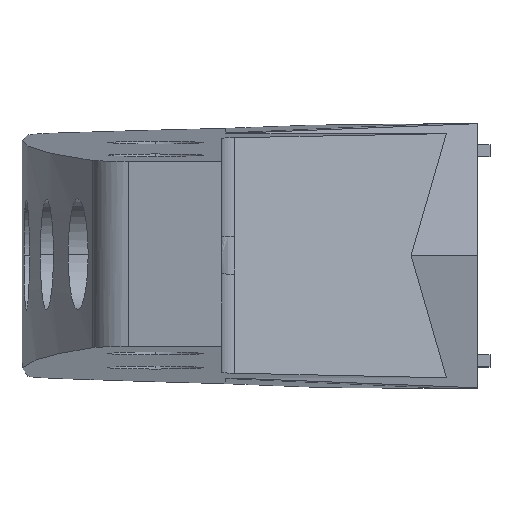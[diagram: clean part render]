
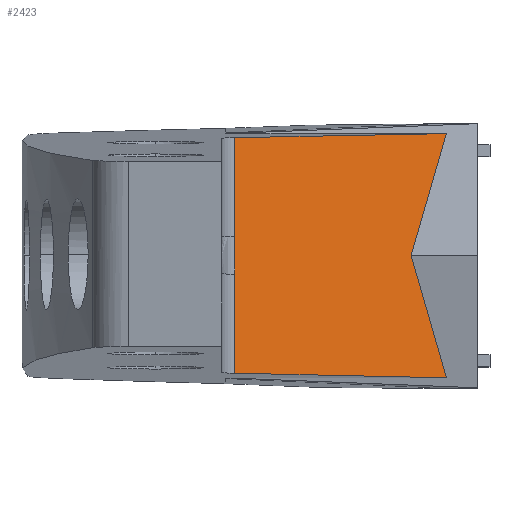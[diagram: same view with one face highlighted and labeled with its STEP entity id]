
A CAD part, top view. The second image highlights one B-rep face of the part: STEP entity #2423.
In plain terms, the highlighted planar face has unit normal (0.567, 0, 0.824).
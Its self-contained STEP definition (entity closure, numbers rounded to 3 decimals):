
#15 = DIRECTION ( 'NONE',  ( -0.824, -0.017, 0.567 ) ) ;
#19 = VERTEX_POINT ( 'NONE', #436 ) ;
#25 = CARTESIAN_POINT ( 'NONE',  ( 25.339, 240.703, 24.941 ) ) ;
#74 = CARTESIAN_POINT ( 'NONE',  ( -9.916, 217.27, 49.217 ) ) ;
#89 = EDGE_CURVE ( 'NONE', #2169, #1644, #1365, .T. ) ;
#102 = ORIENTED_EDGE ( 'NONE', *, *, #978, .T. ) ;
#183 = CARTESIAN_POINT ( 'NONE',  ( 19.445, 220.363, 29. ) ) ;
#199 = CARTESIAN_POINT ( 'NONE',  ( -9.916, 217.27, 49.217 ) ) ;
#307 = ORIENTED_EDGE ( 'NONE', *, *, #2319, .T. ) ;
#337 = EDGE_LOOP ( 'NONE', ( #680, #307, #102, #865, #2372, #658, #1643 ) ) ;
#436 = CARTESIAN_POINT ( 'NONE',  ( -9.916, 200.744, 49.217 ) ) ;
#449 = VERTEX_POINT ( 'NONE', #2281 ) ;
#470 = CARTESIAN_POINT ( 'NONE',  ( -9.916, 217.785, 49.217 ) ) ;
#564 = CARTESIAN_POINT ( 'NONE',  ( 30.597, 198.363, 21.321 ) ) ;
#613 = LINE ( 'NONE', #2429, #2119 ) ;
#658 = ORIENTED_EDGE ( 'NONE', *, *, #1565, .F. ) ;
#680 = ORIENTED_EDGE ( 'NONE', *, *, #1508, .T. ) ;
#703 = VECTOR ( 'NONE', #706, 1000. ) ;
#706 = DIRECTION ( 'NONE',  ( 0., -1., 0. ) ) ;
#764 = LINE ( 'NONE', #2410, #703 ) ;
#865 = ORIENTED_EDGE ( 'NONE', *, *, #2305, .T. ) ;
#940 = CARTESIAN_POINT ( 'NONE',  ( 25.339, 200.023, 24.941 ) ) ;
#952 = DIRECTION ( 'NONE',  ( -0.567, 0., -0.824 ) ) ;
#978 = EDGE_CURVE ( 'NONE', #1422, #2235, #1820, .T. ) ;
#1011 = VECTOR ( 'NONE', #2112, 1000. ) ;
#1022 = CARTESIAN_POINT ( 'NONE',  ( -9.916, 222.94, 49.217 ) ) ;
#1044 = CARTESIAN_POINT ( 'NONE',  ( -9.948, 220.878, 49.239 ) ) ;
#1063 = CARTESIAN_POINT ( 'NONE',  ( 25.339, 200.023, 24.941 ) ) ;
#1117 = VECTOR ( 'NONE', #1880, 1000. ) ;
#1204 = CARTESIAN_POINT ( 'NONE',  ( -9.916, 200.788, 49.217 ) ) ;
#1218 = CARTESIAN_POINT ( 'NONE',  ( -9.941, 219.332, 49.234 ) ) ;
#1234 = CARTESIAN_POINT ( 'NONE',  ( -9.925, 222.425, 49.223 ) ) ;
#1365 = LINE ( 'NONE', #1535, #1011 ) ;
#1422 = VERTEX_POINT ( 'NONE', #2175 ) ;
#1508 = EDGE_CURVE ( 'NONE', #2169, #449, #613, .T. ) ;
#1535 = CARTESIAN_POINT ( 'NONE',  ( 25.339, 240.703, 24.941 ) ) ;
#1565 = EDGE_CURVE ( 'NONE', #1644, #2280, #2063, .T. ) ;
#1597 = CARTESIAN_POINT ( 'NONE',  ( -9.916, 223.456, 49.217 ) ) ;
#1643 = ORIENTED_EDGE ( 'NONE', *, *, #89, .F. ) ;
#1644 = VERTEX_POINT ( 'NONE', #2266 ) ;
#1704 = PLANE ( 'NONE',  #1997 ) ;
#1712 = DIRECTION ( 'NONE',  ( -0.824, 0.017, 0.567 ) ) ;
#1820 = B_SPLINE_CURVE_WITH_KNOTS ( 'NONE', 3,
 ( #1597, #1022, #1234, #2339, #1044, #2144, #1218, #2152, #470, #74 ),
 .UNSPECIFIED., .F., .F.,
 ( 4, 2, 2, 2, 4 ),
 ( 0., 0.002, 0.003, 0.005, 0.006 ),
 .UNSPECIFIED. ) ;
#1832 = FACE_OUTER_BOUND ( 'NONE', #337, .T. ) ;
#1866 = VECTOR ( 'NONE', #2238, 1000. ) ;
#1880 = DIRECTION ( 'NONE',  ( 0.273, -0.943, -0.188 ) ) ;
#1997 = AXIS2_PLACEMENT_3D ( 'NONE', #564, #952, #2069 ) ;
#2063 = LINE ( 'NONE', #183, #1117 ) ;
#2069 = DIRECTION ( 'NONE',  ( -0.824, 0., 0.567 ) ) ;
#2112 = DIRECTION ( 'NONE',  ( -0.273, -0.943, 0.188 ) ) ;
#2119 = VECTOR ( 'NONE', #15, 1000. ) ;
#2120 = LINE ( 'NONE', #940, #2328 ) ;
#2144 = CARTESIAN_POINT ( 'NONE',  ( -9.948, 219.847, 49.239 ) ) ;
#2147 = LINE ( 'NONE', #1204, #1866 ) ;
#2152 = CARTESIAN_POINT ( 'NONE',  ( -9.925, 218.301, 49.223 ) ) ;
#2169 = VERTEX_POINT ( 'NONE', #25 ) ;
#2175 = CARTESIAN_POINT ( 'NONE',  ( -9.916, 223.456, 49.217 ) ) ;
#2235 = VERTEX_POINT ( 'NONE', #199 ) ;
#2238 = DIRECTION ( 'NONE',  ( 0., -1., 0. ) ) ;
#2266 = CARTESIAN_POINT ( 'NONE',  ( 19.445, 220.363, 29. ) ) ;
#2280 = VERTEX_POINT ( 'NONE', #1063 ) ;
#2281 = CARTESIAN_POINT ( 'NONE',  ( -9.916, 239.982, 49.217 ) ) ;
#2305 = EDGE_CURVE ( 'NONE', #2235, #19, #2147, .T. ) ;
#2319 = EDGE_CURVE ( 'NONE', #449, #1422, #764, .T. ) ;
#2328 = VECTOR ( 'NONE', #1712, 1000. ) ;
#2339 = CARTESIAN_POINT ( 'NONE',  ( -9.941, 221.394, 49.234 ) ) ;
#2372 = ORIENTED_EDGE ( 'NONE', *, *, #2435, .F. ) ;
#2410 = CARTESIAN_POINT ( 'NONE',  ( -9.916, 200.788, 49.217 ) ) ;
#2423 = ADVANCED_FACE ( 'NONE', ( #1832 ), #1704, .F. ) ;
#2429 = CARTESIAN_POINT ( 'NONE',  ( 25.339, 240.703, 24.941 ) ) ;
#2435 = EDGE_CURVE ( 'NONE', #2280, #19, #2120, .T. ) ;
